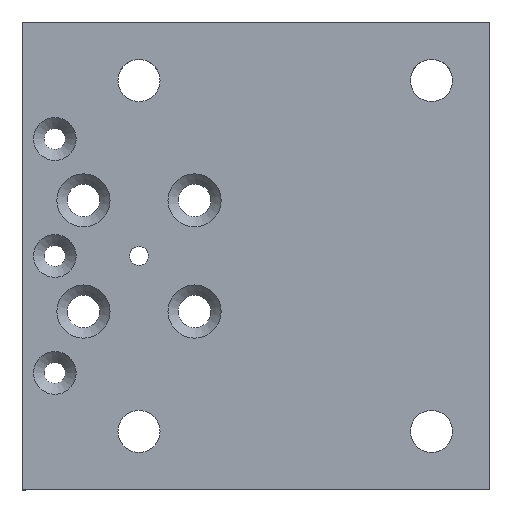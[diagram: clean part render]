
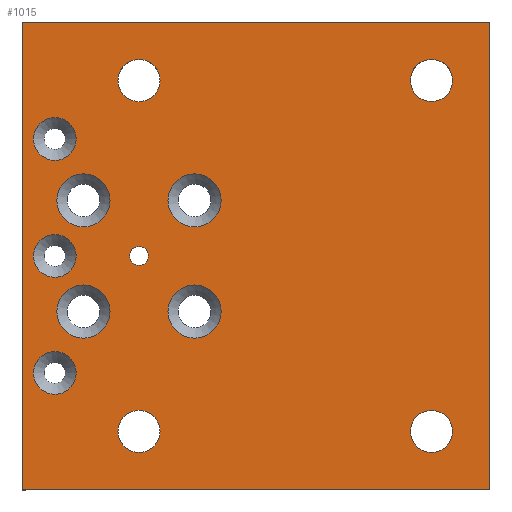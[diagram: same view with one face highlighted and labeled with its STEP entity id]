
A CAD part, top view. The second image highlights one B-rep face of the part: STEP entity #1015.
In plain terms, the highlighted planar face has unit normal (0, 0, 1).
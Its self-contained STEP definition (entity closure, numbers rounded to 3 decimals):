
#470=CIRCLE('',#954,9.);
#471=CIRCLE('',#955,4.);
#472=CIRCLE('',#956,11.365);
#473=CIRCLE('',#957,11.365);
#474=CIRCLE('',#958,11.365);
#475=CIRCLE('',#959,11.365);
#476=CIRCLE('',#960,9.125);
#477=CIRCLE('',#961,9.125);
#478=CIRCLE('',#962,9.125);
#479=CIRCLE('',#963,9.);
#480=CIRCLE('',#964,9.);
#481=CIRCLE('',#965,9.);
#501=ORIENTED_EDGE('',*,*,#650,.F.);
#502=ORIENTED_EDGE('',*,*,#651,.T.);
#503=ORIENTED_EDGE('',*,*,#652,.T.);
#504=ORIENTED_EDGE('',*,*,#653,.F.);
#505=ORIENTED_EDGE('',*,*,#654,.F.);
#506=ORIENTED_EDGE('',*,*,#655,.F.);
#507=ORIENTED_EDGE('',*,*,#656,.F.);
#508=ORIENTED_EDGE('',*,*,#657,.F.);
#509=ORIENTED_EDGE('',*,*,#658,.F.);
#510=ORIENTED_EDGE('',*,*,#659,.F.);
#511=ORIENTED_EDGE('',*,*,#660,.F.);
#512=ORIENTED_EDGE('',*,*,#661,.F.);
#513=ORIENTED_EDGE('',*,*,#662,.F.);
#514=ORIENTED_EDGE('',*,*,#663,.F.);
#515=ORIENTED_EDGE('',*,*,#664,.F.);
#516=ORIENTED_EDGE('',*,*,#665,.F.);
#587=VECTOR('',#831,1.);
#588=VECTOR('',#832,1.);
#589=VECTOR('',#833,1.);
#590=VECTOR('',#834,1.);
#599=LINE('',#1055,#587);
#600=LINE('',#1057,#588);
#601=LINE('',#1059,#589);
#602=LINE('',#1060,#590);
#611=VERTEX_POINT('',#1053);
#612=VERTEX_POINT('',#1054);
#613=VERTEX_POINT('',#1056);
#614=VERTEX_POINT('',#1058);
#615=VERTEX_POINT('',#1061);
#616=VERTEX_POINT('',#1063);
#617=VERTEX_POINT('',#1065);
#618=VERTEX_POINT('',#1067);
#619=VERTEX_POINT('',#1069);
#620=VERTEX_POINT('',#1071);
#621=VERTEX_POINT('',#1073);
#622=VERTEX_POINT('',#1075);
#623=VERTEX_POINT('',#1077);
#624=VERTEX_POINT('',#1079);
#625=VERTEX_POINT('',#1081);
#626=VERTEX_POINT('',#1083);
#650=EDGE_CURVE('',#611,#612,#599,.T.);
#651=EDGE_CURVE('',#611,#613,#600,.T.);
#652=EDGE_CURVE('',#613,#614,#601,.T.);
#653=EDGE_CURVE('',#612,#614,#602,.T.);
#654=EDGE_CURVE('',#615,#615,#470,.T.);
#655=EDGE_CURVE('',#616,#616,#471,.T.);
#656=EDGE_CURVE('',#617,#617,#472,.T.);
#657=EDGE_CURVE('',#618,#618,#473,.T.);
#658=EDGE_CURVE('',#619,#619,#474,.T.);
#659=EDGE_CURVE('',#620,#620,#475,.T.);
#660=EDGE_CURVE('',#621,#621,#476,.T.);
#661=EDGE_CURVE('',#622,#622,#477,.T.);
#662=EDGE_CURVE('',#623,#623,#478,.T.);
#663=EDGE_CURVE('',#624,#624,#479,.T.);
#664=EDGE_CURVE('',#625,#625,#480,.T.);
#665=EDGE_CURVE('',#626,#626,#481,.T.);
#693=EDGE_LOOP('',(#501,#502,#503,#504));
#694=EDGE_LOOP('',(#505));
#695=EDGE_LOOP('',(#506));
#696=EDGE_LOOP('',(#507));
#697=EDGE_LOOP('',(#508));
#698=EDGE_LOOP('',(#509));
#699=EDGE_LOOP('',(#510));
#700=EDGE_LOOP('',(#511));
#701=EDGE_LOOP('',(#512));
#702=EDGE_LOOP('',(#513));
#703=EDGE_LOOP('',(#514));
#704=EDGE_LOOP('',(#515));
#705=EDGE_LOOP('',(#516));
#761=FACE_BOUND('',#693,.T.);
#762=FACE_BOUND('',#694,.T.);
#763=FACE_BOUND('',#695,.T.);
#764=FACE_BOUND('',#696,.T.);
#765=FACE_BOUND('',#697,.T.);
#766=FACE_BOUND('',#698,.T.);
#767=FACE_BOUND('',#699,.T.);
#768=FACE_BOUND('',#700,.T.);
#769=FACE_BOUND('',#701,.T.);
#770=FACE_BOUND('',#702,.T.);
#771=FACE_BOUND('',#703,.T.);
#772=FACE_BOUND('',#704,.T.);
#773=FACE_BOUND('',#705,.T.);
#829=DIRECTION('',(0.,0.,1.));
#830=DIRECTION('',(0.,-1.,0.));
#831=DIRECTION('',(-200.,0.,0.));
#832=DIRECTION('',(0.,200.,0.));
#833=DIRECTION('',(-200.,0.,0.));
#834=DIRECTION('',(0.,200.,0.));
#835=DIRECTION('',(0.,0.,1.));
#836=DIRECTION('',(0.,-9.,0.));
#837=DIRECTION('',(0.,0.,1.));
#838=DIRECTION('',(0.,-4.,0.));
#839=DIRECTION('',(0.,0.,1.));
#840=DIRECTION('',(0.,11.365,0.));
#841=DIRECTION('',(0.,0.,1.));
#842=DIRECTION('',(0.,11.365,0.));
#843=DIRECTION('',(0.,0.,1.));
#844=DIRECTION('',(0.,11.365,0.));
#845=DIRECTION('',(0.,0.,1.));
#846=DIRECTION('',(0.,11.365,0.));
#847=DIRECTION('',(0.,0.,1.));
#848=DIRECTION('',(9.125,0.,0.));
#849=DIRECTION('',(0.,0.,1.));
#850=DIRECTION('',(9.125,0.,0.));
#851=DIRECTION('',(0.,0.,1.));
#852=DIRECTION('',(9.125,0.,0.));
#853=DIRECTION('',(0.,0.,1.));
#854=DIRECTION('',(0.,-9.,0.));
#855=DIRECTION('',(0.,0.,1.));
#856=DIRECTION('',(0.,-9.,0.));
#857=DIRECTION('',(0.,0.,1.));
#858=DIRECTION('',(0.,-9.,0.));
#953=AXIS2_PLACEMENT_3D('',#1052,#829,#830);
#954=AXIS2_PLACEMENT_3D('',#1062,#835,#836);
#955=AXIS2_PLACEMENT_3D('',#1064,#837,#838);
#956=AXIS2_PLACEMENT_3D('',#1066,#839,#840);
#957=AXIS2_PLACEMENT_3D('',#1068,#841,#842);
#958=AXIS2_PLACEMENT_3D('',#1070,#843,#844);
#959=AXIS2_PLACEMENT_3D('',#1072,#845,#846);
#960=AXIS2_PLACEMENT_3D('',#1074,#847,#848);
#961=AXIS2_PLACEMENT_3D('',#1076,#849,#850);
#962=AXIS2_PLACEMENT_3D('',#1078,#851,#852);
#963=AXIS2_PLACEMENT_3D('',#1080,#853,#854);
#964=AXIS2_PLACEMENT_3D('',#1082,#855,#856);
#965=AXIS2_PLACEMENT_3D('',#1084,#857,#858);
#1009=PLANE('',#953);
#1015=ADVANCED_FACE('',(#761,#762,#763,#764,#765,#766,#767,#768,#769,#770,
#771,#772,#773),#1009,.T.);
#1052=CARTESIAN_POINT('',(200.,-100.,7.5));
#1053=CARTESIAN_POINT('',(200.,-100.,7.5));
#1054=CARTESIAN_POINT('',(0.,-100.,7.5));
#1055=CARTESIAN_POINT('',(200.,-100.,7.5));
#1056=CARTESIAN_POINT('',(200.,100.,7.5));
#1057=CARTESIAN_POINT('',(200.,-100.,7.5));
#1058=CARTESIAN_POINT('',(0.,100.,7.5));
#1059=CARTESIAN_POINT('',(200.,100.,7.5));
#1060=CARTESIAN_POINT('',(0.,-100.,7.5));
#1061=CARTESIAN_POINT('',(50.,66.,7.5));
#1062=CARTESIAN_POINT('',(50.,75.,7.5));
#1063=CARTESIAN_POINT('',(50.,-4.,7.5));
#1064=CARTESIAN_POINT('',(50.,0.,7.5));
#1065=CARTESIAN_POINT('',(26.25,-12.385,7.5));
#1066=CARTESIAN_POINT('',(26.25,-23.75,7.5));
#1067=CARTESIAN_POINT('',(73.75,-12.385,7.5));
#1068=CARTESIAN_POINT('',(73.75,-23.75,7.5));
#1069=CARTESIAN_POINT('',(26.25,35.115,7.5));
#1070=CARTESIAN_POINT('',(26.25,23.75,7.5));
#1071=CARTESIAN_POINT('',(73.75,35.115,7.5));
#1072=CARTESIAN_POINT('',(73.75,23.75,7.5));
#1073=CARTESIAN_POINT('',(23.125,50.,7.5));
#1074=CARTESIAN_POINT('',(14.,50.,7.5));
#1075=CARTESIAN_POINT('',(23.125,0.,7.5));
#1076=CARTESIAN_POINT('',(14.,0.,7.5));
#1077=CARTESIAN_POINT('',(23.125,-50.,7.5));
#1078=CARTESIAN_POINT('',(14.,-50.,7.5));
#1079=CARTESIAN_POINT('',(175.,66.,7.5));
#1080=CARTESIAN_POINT('',(175.,75.,7.5));
#1081=CARTESIAN_POINT('',(50.,-84.,7.5));
#1082=CARTESIAN_POINT('',(50.,-75.,7.5));
#1083=CARTESIAN_POINT('',(175.,-84.,7.5));
#1084=CARTESIAN_POINT('',(175.,-75.,7.5));
